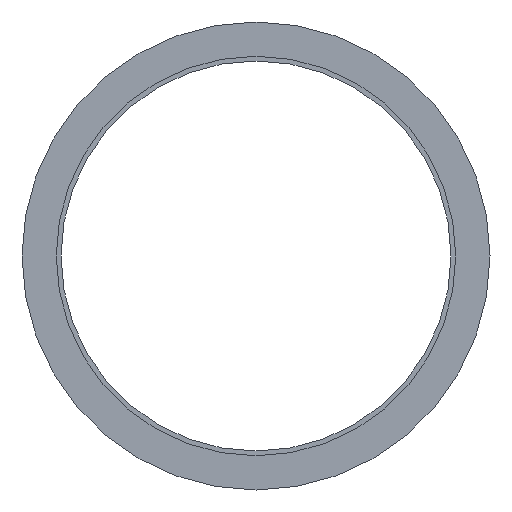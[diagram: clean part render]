
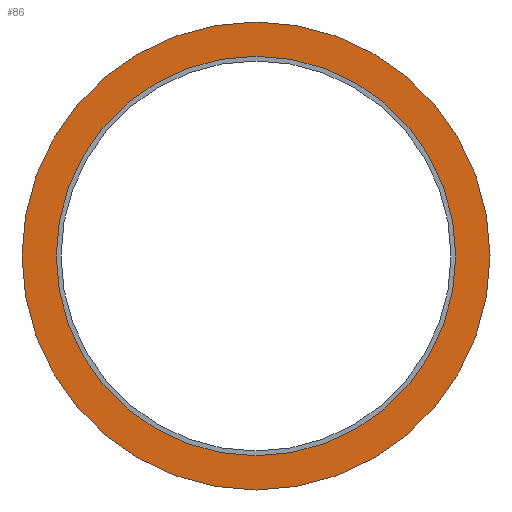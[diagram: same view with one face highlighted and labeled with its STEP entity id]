
A CAD part, left-side view. The second image highlights one B-rep face of the part: STEP entity #86.
In plain terms, the highlighted planar face has unit normal (-1, 0, 0).
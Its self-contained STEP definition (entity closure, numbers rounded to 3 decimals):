
#10 = VERTEX_POINT ( 'NONE', #333 ) ;
#13 = CARTESIAN_POINT ( 'NONE',  ( -3.244, -0.153, 15. ) ) ;
#36 = VERTEX_POINT ( 'NONE', #176 ) ;
#51 = CIRCLE ( 'NONE', #126, 15. ) ;
#54 = PLANE ( 'NONE',  #391 ) ;
#66 = CARTESIAN_POINT ( 'NONE',  ( -3.244, -0.153, 0. ) ) ;
#74 = DIRECTION ( 'NONE',  ( 0., 0., 1. ) ) ;
#76 = DIRECTION ( 'NONE',  ( -1., 0., 0. ) ) ;
#86 = ADVANCED_FACE ( 'NONE', ( #335, #375 ), #54, .T. ) ;
#97 = EDGE_CURVE ( 'NONE', #149, #36, #114, .T. ) ;
#98 = ORIENTED_EDGE ( 'NONE', *, *, #247, .T. ) ;
#110 = DIRECTION ( 'NONE',  ( 1., 0., 0. ) ) ;
#114 = CIRCLE ( 'NONE', #251, 12.805 ) ;
#118 = ORIENTED_EDGE ( 'NONE', *, *, #97, .T. ) ;
#121 = EDGE_CURVE ( 'NONE', #125, #10, #51, .T. ) ;
#125 = VERTEX_POINT ( 'NONE', #13 ) ;
#126 = AXIS2_PLACEMENT_3D ( 'NONE', #384, #110, #265 ) ;
#149 = VERTEX_POINT ( 'NONE', #208 ) ;
#167 = CARTESIAN_POINT ( 'NONE',  ( -3.244, -0.153, 0. ) ) ;
#176 = CARTESIAN_POINT ( 'NONE',  ( -3.244, -0.153, -12.805 ) ) ;
#189 = ORIENTED_EDGE ( 'NONE', *, *, #290, .F. ) ;
#191 = EDGE_LOOP ( 'NONE', ( #189, #292 ) ) ;
#192 = DIRECTION ( 'NONE',  ( 1., 0., 0. ) ) ;
#202 = EDGE_LOOP ( 'NONE', ( #98, #118 ) ) ;
#203 = DIRECTION ( 'NONE',  ( 1., 0., 0. ) ) ;
#208 = CARTESIAN_POINT ( 'NONE',  ( -3.244, -0.153, 12.805 ) ) ;
#224 = CIRCLE ( 'NONE', #316, 12.805 ) ;
#247 = EDGE_CURVE ( 'NONE', #36, #149, #224, .T. ) ;
#251 = AXIS2_PLACEMENT_3D ( 'NONE', #66, #266, #340 ) ;
#265 = DIRECTION ( 'NONE',  ( 0., 0., -1. ) ) ;
#266 = DIRECTION ( 'NONE',  ( 1., 0., 0. ) ) ;
#276 = CARTESIAN_POINT ( 'NONE',  ( -3.244, -0.153, 0. ) ) ;
#290 = EDGE_CURVE ( 'NONE', #10, #125, #312, .T. ) ;
#292 = ORIENTED_EDGE ( 'NONE', *, *, #121, .F. ) ;
#295 = AXIS2_PLACEMENT_3D ( 'NONE', #167, #192, #334 ) ;
#300 = DIRECTION ( 'NONE',  ( 0., 0., -1. ) ) ;
#312 = CIRCLE ( 'NONE', #295, 15. ) ;
#316 = AXIS2_PLACEMENT_3D ( 'NONE', #392, #203, #300 ) ;
#333 = CARTESIAN_POINT ( 'NONE',  ( -3.244, -0.153, -15. ) ) ;
#334 = DIRECTION ( 'NONE',  ( 0., 0., -1. ) ) ;
#335 = FACE_BOUND ( 'NONE', #202, .T. ) ;
#340 = DIRECTION ( 'NONE',  ( 0., 0., -1. ) ) ;
#375 = FACE_OUTER_BOUND ( 'NONE', #191, .T. ) ;
#384 = CARTESIAN_POINT ( 'NONE',  ( -3.244, -0.153, 0. ) ) ;
#391 = AXIS2_PLACEMENT_3D ( 'NONE', #276, #76, #74 ) ;
#392 = CARTESIAN_POINT ( 'NONE',  ( -3.244, -0.153, 0. ) ) ;
